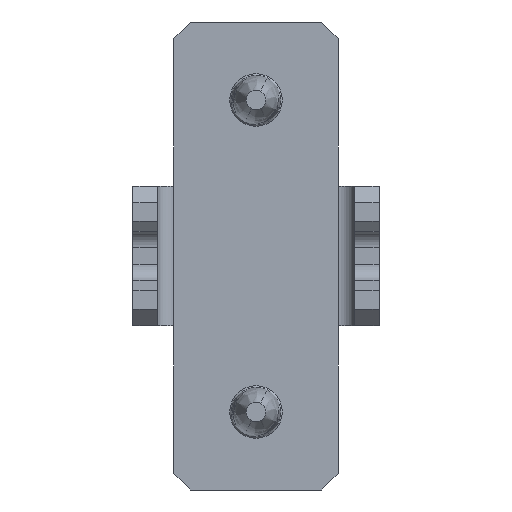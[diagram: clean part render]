
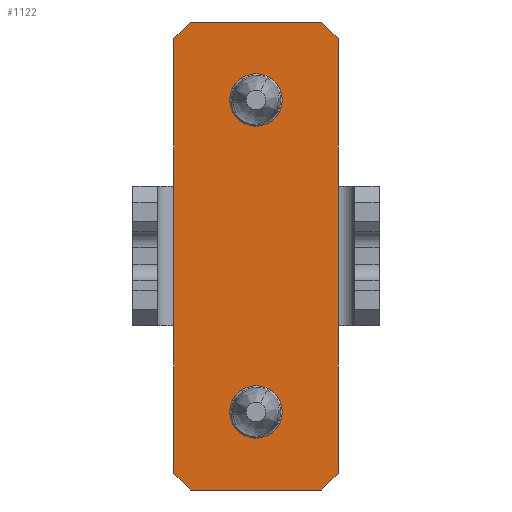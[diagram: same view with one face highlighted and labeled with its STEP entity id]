
A CAD part, left-side view. The second image highlights one B-rep face of the part: STEP entity #1122.
In plain terms, the highlighted planar face has unit normal (-1, 0, 0) as drawn and (0, 0, 1) by its records, which use the part's own axes.
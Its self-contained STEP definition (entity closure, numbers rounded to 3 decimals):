
#90 = ORIENTED_EDGE ( 'NONE', *, *, #3379, .T. ) ;
#98 = LINE ( 'NONE', #4035, #926 ) ;
#117 = EDGE_LOOP ( 'NONE', ( #4764, #3242, #4536, #1089, #1074, #2678, #950, #4566, #343, #2816, #178, #3380 ) ) ;
#152 = CARTESIAN_POINT ( 'NONE',  ( -28.5, 0., 0. ) ) ;
#168 = PLANE ( 'NONE',  #3447 ) ;
#176 = AXIS2_PLACEMENT_3D ( 'NONE', #1224, #4040, #1616 ) ;
#178 = ORIENTED_EDGE ( 'NONE', *, *, #1245, .T. ) ;
#188 = CARTESIAN_POINT ( 'NONE',  ( 15.8, -10., 0. ) ) ;
#229 = DIRECTION ( 'NONE',  ( 0., 0., -1. ) ) ;
#244 = VERTEX_POINT ( 'NONE', #2316 ) ;
#254 = DIRECTION ( 'NONE',  ( -1., 0., 0. ) ) ;
#260 = CARTESIAN_POINT ( 'NONE',  ( -28.5, -18., 0. ) ) ;
#295 = ORIENTED_EDGE ( 'NONE', *, *, #3294, .T. ) ;
#313 = VERTEX_POINT ( 'NONE', #3154 ) ;
#316 = CARTESIAN_POINT ( 'NONE',  ( 26.5, 0., 0. ) ) ;
#343 = ORIENTED_EDGE ( 'NONE', *, *, #4412, .T. ) ;
#536 = CARTESIAN_POINT ( 'NONE',  ( -28.5, -20., 0. ) ) ;
#572 = CARTESIAN_POINT ( 'NONE',  ( 8.5, -20., 0. ) ) ;
#591 = LINE ( 'NONE', #536, #2719 ) ;
#668 = LINE ( 'NONE', #1315, #1351 ) ;
#710 = CARTESIAN_POINT ( 'NONE',  ( 19., -10., 0. ) ) ;
#774 = VERTEX_POINT ( 'NONE', #3340 ) ;
#790 = CIRCLE ( 'NONE', #1327, 3.2 ) ;
#848 = CARTESIAN_POINT ( 'NONE',  ( 26.5, -20., 0. ) ) ;
#859 = CARTESIAN_POINT ( 'NONE',  ( -8.5, 0., 0. ) ) ;
#901 = CARTESIAN_POINT ( 'NONE',  ( -28.5, -20., 0. ) ) ;
#920 = VECTOR ( 'NONE', #4325, 1000. ) ;
#926 = VECTOR ( 'NONE', #4008, 1000. ) ;
#950 = ORIENTED_EDGE ( 'NONE', *, *, #5197, .T. ) ;
#1049 = LINE ( 'NONE', #1493, #920 ) ;
#1056 = VECTOR ( 'NONE', #2959, 1000. ) ;
#1057 = VERTEX_POINT ( 'NONE', #4538 ) ;
#1074 = ORIENTED_EDGE ( 'NONE', *, *, #2636, .T. ) ;
#1089 = ORIENTED_EDGE ( 'NONE', *, *, #2171, .T. ) ;
#1111 = EDGE_CURVE ( 'NONE', #3579, #4098, #1179, .T. ) ;
#1121 = DIRECTION ( 'NONE',  ( -1., 0., 0. ) ) ;
#1122 = ADVANCED_FACE ( 'NONE', ( #5209, #2108, #3049 ), #168, .T. ) ;
#1179 = LINE ( 'NONE', #152, #1056 ) ;
#1224 = CARTESIAN_POINT ( 'NONE',  ( -19., -10., 0. ) ) ;
#1245 = EDGE_CURVE ( 'NONE', #244, #3237, #668, .T. ) ;
#1268 = EDGE_CURVE ( 'NONE', #4098, #3780, #5000, .T. ) ;
#1315 = CARTESIAN_POINT ( 'NONE',  ( 28.5, -20., 0. ) ) ;
#1319 = EDGE_CURVE ( 'NONE', #3237, #3579, #3672, .T. ) ;
#1327 = AXIS2_PLACEMENT_3D ( 'NONE', #710, #3520, #1121 ) ;
#1351 = VECTOR ( 'NONE', #4140, 1000. ) ;
#1367 = DIRECTION ( 'NONE',  ( 0., 0., 1. ) ) ;
#1451 = CARTESIAN_POINT ( 'NONE',  ( 26.5, -20., 0. ) ) ;
#1493 = CARTESIAN_POINT ( 'NONE',  ( -28.5, -20., 0. ) ) ;
#1542 = VECTOR ( 'NONE', #2269, 1000. ) ;
#1616 = DIRECTION ( 'NONE',  ( -1., 0., 0. ) ) ;
#1659 = VECTOR ( 'NONE', #4279, 1000. ) ;
#1663 = LINE ( 'NONE', #260, #1542 ) ;
#1678 = VERTEX_POINT ( 'NONE', #4755 ) ;
#1696 = AXIS2_PLACEMENT_3D ( 'NONE', #2628, #229, #3028 ) ;
#1794 = CIRCLE ( 'NONE', #1696, 3.2 ) ;
#1824 = CARTESIAN_POINT ( 'NONE',  ( 22.2, -10., 0. ) ) ;
#1841 = LINE ( 'NONE', #2780, #2781 ) ;
#1878 = ORIENTED_EDGE ( 'NONE', *, *, #3124, .T. ) ;
#2108 = FACE_BOUND ( 'NONE', #2772, .T. ) ;
#2139 = CARTESIAN_POINT ( 'NONE',  ( -26.5, 0., 0. ) ) ;
#2171 = EDGE_CURVE ( 'NONE', #3581, #3993, #3742, .T. ) ;
#2269 = DIRECTION ( 'NONE',  ( 0.707, -0.707, 0. ) ) ;
#2316 = CARTESIAN_POINT ( 'NONE',  ( 28.5, -18., 0. ) ) ;
#2419 = CIRCLE ( 'NONE', #176, 3.2 ) ;
#2483 = CIRCLE ( 'NONE', #2767, 3.2 ) ;
#2520 = VECTOR ( 'NONE', #2550, 1000. ) ;
#2538 = VERTEX_POINT ( 'NONE', #848 ) ;
#2550 = DIRECTION ( 'NONE',  ( -0.707, -0.707, 0. ) ) ;
#2585 = VECTOR ( 'NONE', #4581, 1000. ) ;
#2628 = CARTESIAN_POINT ( 'NONE',  ( 19., -10., 0. ) ) ;
#2636 = EDGE_CURVE ( 'NONE', #3993, #3510, #4816, .T. ) ;
#2654 = VECTOR ( 'NONE', #3726, 1000. ) ;
#2662 = DIRECTION ( 'NONE',  ( 0., 0., -1. ) ) ;
#2678 = ORIENTED_EDGE ( 'NONE', *, *, #5026, .T. ) ;
#2719 = VECTOR ( 'NONE', #3323, 1000. ) ;
#2728 = LINE ( 'NONE', #1451, #1659 ) ;
#2729 = CARTESIAN_POINT ( 'NONE',  ( -26.5, 0., 0. ) ) ;
#2767 = AXIS2_PLACEMENT_3D ( 'NONE', #5090, #2662, #254 ) ;
#2772 = EDGE_LOOP ( 'NONE', ( #295, #3651 ) ) ;
#2780 = CARTESIAN_POINT ( 'NONE',  ( -28.5, 0., 0. ) ) ;
#2781 = VECTOR ( 'NONE', #3594, 1000. ) ;
#2816 = ORIENTED_EDGE ( 'NONE', *, *, #4171, .T. ) ;
#2931 = CARTESIAN_POINT ( 'NONE',  ( -28.5, -2., 0. ) ) ;
#2959 = DIRECTION ( 'NONE',  ( -1., 0., 0. ) ) ;
#2982 = DIRECTION ( 'NONE',  ( 1., 0., 0. ) ) ;
#3028 = DIRECTION ( 'NONE',  ( -1., 0., 0. ) ) ;
#3049 = FACE_BOUND ( 'NONE', #4409, .T. ) ;
#3077 = EDGE_CURVE ( 'NONE', #3780, #3581, #1841, .T. ) ;
#3124 = EDGE_CURVE ( 'NONE', #774, #1057, #2419, .T. ) ;
#3154 = CARTESIAN_POINT ( 'NONE',  ( -8.5, -20., 0. ) ) ;
#3237 = VERTEX_POINT ( 'NONE', #4982 ) ;
#3242 = ORIENTED_EDGE ( 'NONE', *, *, #1268, .T. ) ;
#3294 = EDGE_CURVE ( 'NONE', #4876, #4159, #1794, .T. ) ;
#3323 = DIRECTION ( 'NONE',  ( 1., 0., 0. ) ) ;
#3340 = CARTESIAN_POINT ( 'NONE',  ( -22.2, -10., 0. ) ) ;
#3379 = EDGE_CURVE ( 'NONE', #1057, #774, #2483, .T. ) ;
#3380 = ORIENTED_EDGE ( 'NONE', *, *, #1319, .T. ) ;
#3447 = AXIS2_PLACEMENT_3D ( 'NONE', #4993, #1367, #2982 ) ;
#3510 = VERTEX_POINT ( 'NONE', #3524 ) ;
#3520 = DIRECTION ( 'NONE',  ( 0., 0., -1. ) ) ;
#3524 = CARTESIAN_POINT ( 'NONE',  ( -28.5, -18., 0. ) ) ;
#3561 = EDGE_CURVE ( 'NONE', #4159, #4876, #790, .T. ) ;
#3579 = VERTEX_POINT ( 'NONE', #316 ) ;
#3581 = VERTEX_POINT ( 'NONE', #2729 ) ;
#3594 = DIRECTION ( 'NONE',  ( -1., 0., 0. ) ) ;
#3651 = ORIENTED_EDGE ( 'NONE', *, *, #3561, .T. ) ;
#3672 = LINE ( 'NONE', #3785, #2585 ) ;
#3726 = DIRECTION ( 'NONE',  ( 0., -1., 0. ) ) ;
#3742 = LINE ( 'NONE', #2139, #2520 ) ;
#3752 = CARTESIAN_POINT ( 'NONE',  ( -28.5, 0., 0. ) ) ;
#3780 = VERTEX_POINT ( 'NONE', #859 ) ;
#3785 = CARTESIAN_POINT ( 'NONE',  ( 28.5, -2., 0. ) ) ;
#3927 = VECTOR ( 'NONE', #4965, 1000. ) ;
#3993 = VERTEX_POINT ( 'NONE', #2931 ) ;
#4008 = DIRECTION ( 'NONE',  ( 1., 0., 0. ) ) ;
#4035 = CARTESIAN_POINT ( 'NONE',  ( -28.5, -20., 0. ) ) ;
#4040 = DIRECTION ( 'NONE',  ( 0., 0., -1. ) ) ;
#4070 = VERTEX_POINT ( 'NONE', #572 ) ;
#4098 = VERTEX_POINT ( 'NONE', #5021 ) ;
#4140 = DIRECTION ( 'NONE',  ( 0., 1., 0. ) ) ;
#4159 = VERTEX_POINT ( 'NONE', #1824 ) ;
#4171 = EDGE_CURVE ( 'NONE', #2538, #244, #2728, .T. ) ;
#4279 = DIRECTION ( 'NONE',  ( 0.707, 0.707, 0. ) ) ;
#4325 = DIRECTION ( 'NONE',  ( 1., 0., 0. ) ) ;
#4409 = EDGE_LOOP ( 'NONE', ( #1878, #90 ) ) ;
#4412 = EDGE_CURVE ( 'NONE', #4070, #2538, #1049, .T. ) ;
#4536 = ORIENTED_EDGE ( 'NONE', *, *, #3077, .T. ) ;
#4538 = CARTESIAN_POINT ( 'NONE',  ( -15.8, -10., 0. ) ) ;
#4566 = ORIENTED_EDGE ( 'NONE', *, *, #4779, .T. ) ;
#4581 = DIRECTION ( 'NONE',  ( -0.707, 0.707, 0. ) ) ;
#4755 = CARTESIAN_POINT ( 'NONE',  ( -26.5, -20., 0. ) ) ;
#4764 = ORIENTED_EDGE ( 'NONE', *, *, #1111, .T. ) ;
#4779 = EDGE_CURVE ( 'NONE', #313, #4070, #591, .T. ) ;
#4816 = LINE ( 'NONE', #901, #2654 ) ;
#4876 = VERTEX_POINT ( 'NONE', #188 ) ;
#4965 = DIRECTION ( 'NONE',  ( -1., 0., 0. ) ) ;
#4982 = CARTESIAN_POINT ( 'NONE',  ( 28.5, -2., 0. ) ) ;
#4993 = CARTESIAN_POINT ( 'NONE',  ( -28.5, -20., 0. ) ) ;
#5000 = LINE ( 'NONE', #3752, #3927 ) ;
#5021 = CARTESIAN_POINT ( 'NONE',  ( 8.5, 0., 0. ) ) ;
#5026 = EDGE_CURVE ( 'NONE', #3510, #1678, #1663, .T. ) ;
#5090 = CARTESIAN_POINT ( 'NONE',  ( -19., -10., 0. ) ) ;
#5197 = EDGE_CURVE ( 'NONE', #1678, #313, #98, .T. ) ;
#5209 = FACE_OUTER_BOUND ( 'NONE', #117, .T. ) ;
